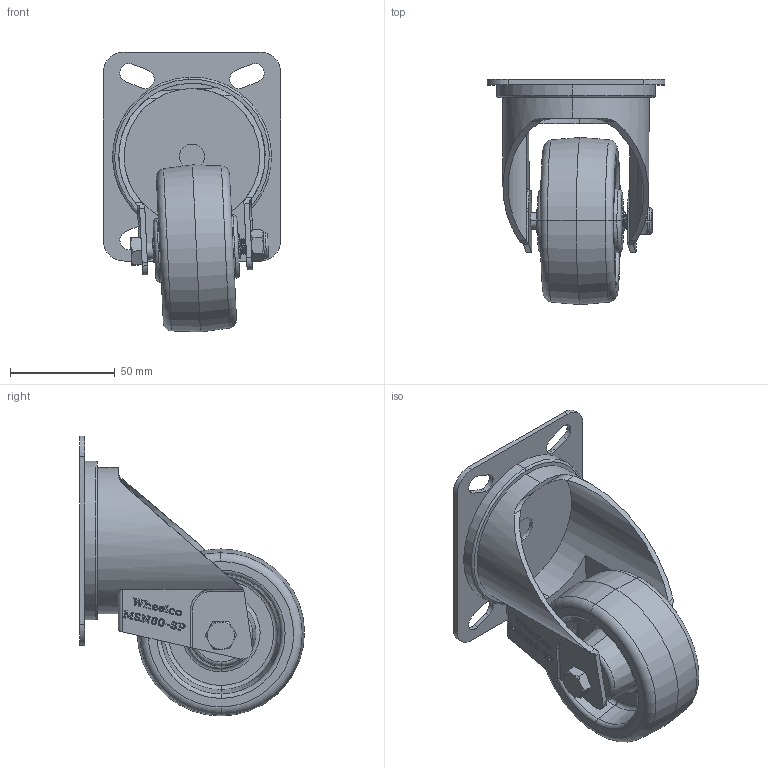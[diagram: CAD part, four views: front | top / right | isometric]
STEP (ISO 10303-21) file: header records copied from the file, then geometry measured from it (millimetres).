
FILE_DESCRIPTION (( 'STEP AP214' ), '1' );
FILE_NAME ('MSN80-SP.step', '2024-01-21T22:20:57', ( '' ), ( '' ), 'SwSTEP 2.0', 'SolidWorks 2022', '' );
FILE_SCHEMA (( 'AUTOMOTIVE_DESIGN' ));
Length unit declared in the file: millimetre
Products named in the file (7): MSN80-SP; SP12-8-41-SS; M8x55-SS; M8Nyloc; MSN80; 100X85 ANGLED
Assembly tree (6 placements, depth 2):
  MSN80-SP
    MSN80-SP
    M8x55-SS
    SP12-8-41-SS
    100X85 ANGLED
    MSN80
    M8Nyloc
Bounding box: 85 x 107.6 x 133.9 mm (x, y, z)
Volume: 183677.9 mm3; surface area: 80137.8 mm2
Topology: 6 solids, 6 shells, 554 faces, 1476 edges, 967 vertices
Faces by surface type: plane 236, cylinder 126, bspline 124, torus 34, cone 32, sphere 2
Entity records: 29531 total; most frequent: CARTESIAN_POINT 15873, ORIENTED_EDGE 2952, DIRECTION 2157, EDGE_CURVE 1476, VERTEX_POINT 967, LINE 825, VECTOR 825, AXIS2_PLACEMENT_3D 666
